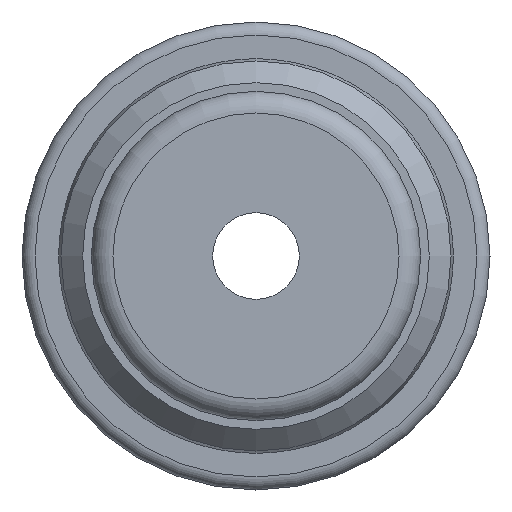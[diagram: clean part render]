
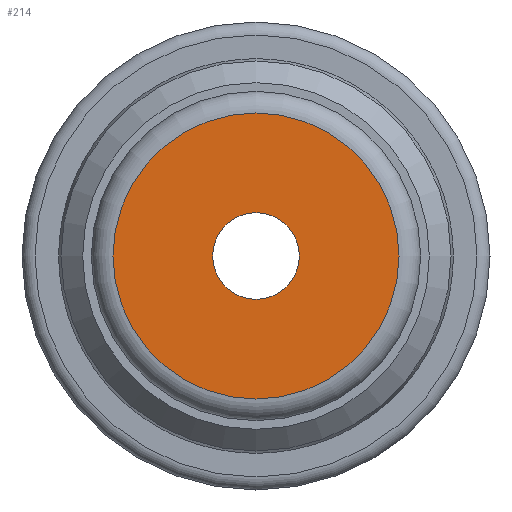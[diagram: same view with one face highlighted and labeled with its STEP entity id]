
A CAD part, left-side view. The second image highlights one B-rep face of the part: STEP entity #214.
In plain terms, the highlighted planar face has unit normal (-1, 0, 0).
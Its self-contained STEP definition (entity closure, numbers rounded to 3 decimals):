
#214 = ADVANCED_FACE( '', ( #502, #503 ), #504, .F. );
#502 = FACE_BOUND( '', #870, .T. );
#503 = FACE_OUTER_BOUND( '', #871, .T. );
#504 = PLANE( '', #872 );
#870 = EDGE_LOOP( '', ( #1392 ) );
#871 = EDGE_LOOP( '', ( #1393 ) );
#872 = AXIS2_PLACEMENT_3D( '', #1394, #1395, #1396 );
#1392 = ORIENTED_EDGE( '', *, *, #1879, .F. );
#1393 = ORIENTED_EDGE( '', *, *, #1811, .T. );
#1394 = CARTESIAN_POINT( '', ( -38.25, 0., 1. ) );
#1395 = DIRECTION( '', ( 1., 0., 0. ) );
#1396 = DIRECTION( '', ( 0., 0., -1. ) );
#1811 = EDGE_CURVE( '', #2102, #2102, #2103, .T. );
#1879 = EDGE_CURVE( '', #2206, #2206, #2207, .T. );
#2102 = VERTEX_POINT( '', #2485 );
#2103 = CIRCLE( '', #2486, 3.3 );
#2206 = VERTEX_POINT( '', #2603 );
#2207 = CIRCLE( '', #2604, 1. );
#2485 = CARTESIAN_POINT( '', ( -38.25, 0., 3.3 ) );
#2486 = AXIS2_PLACEMENT_3D( '', #2827, #2828, #2829 );
#2603 = CARTESIAN_POINT( '', ( -38.25, 0., 1. ) );
#2604 = AXIS2_PLACEMENT_3D( '', #2931, #2932, #2933 );
#2827 = CARTESIAN_POINT( '', ( -38.25, 0., 0. ) );
#2828 = DIRECTION( '', ( -1., 0., 0. ) );
#2829 = DIRECTION( '', ( 0., 0., 1. ) );
#2931 = CARTESIAN_POINT( '', ( -38.25, 0., 0. ) );
#2932 = DIRECTION( '', ( -1., 0., 0. ) );
#2933 = DIRECTION( '', ( 0., 0., 1. ) );
